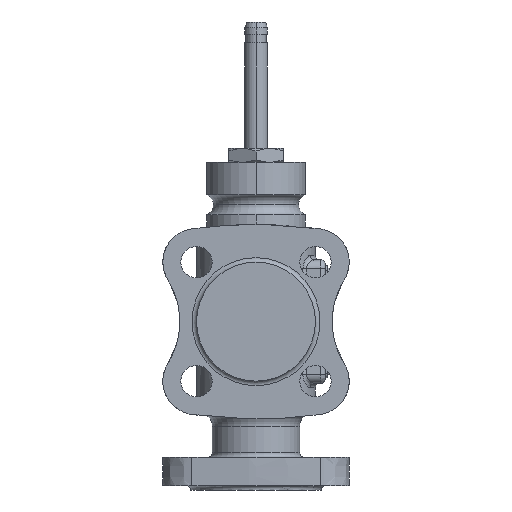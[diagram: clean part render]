
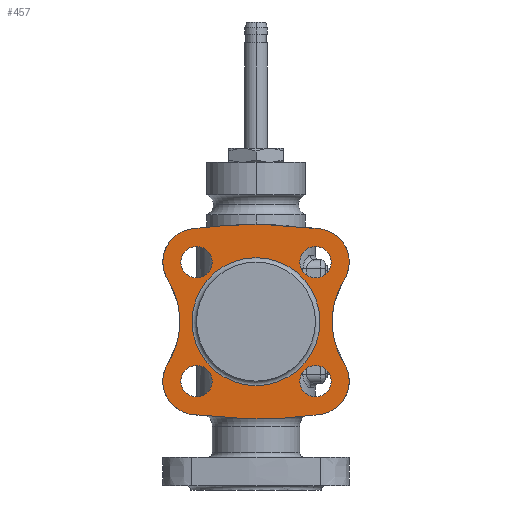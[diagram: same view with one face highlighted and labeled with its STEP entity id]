
A CAD part, left-side view. The second image highlights one B-rep face of the part: STEP entity #457.
In plain terms, the highlighted planar face has unit normal (-1, 0, 0).
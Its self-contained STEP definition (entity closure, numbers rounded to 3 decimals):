
#457=ADVANCED_FACE('',(#712,#713,#714,#715,#716,#717),#593,.T.);
#593=PLANE('',#2248);
#624=B_SPLINE_CURVE_WITH_KNOTS('',3,(#3080,#3081,#3082,#3083),
 .UNSPECIFIED.,.F.,.F.,(4,4),(0.,1.),.UNSPECIFIED.);
#625=B_SPLINE_CURVE_WITH_KNOTS('',3,(#3086,#3087,#3088,#3089,#3090,#3091),
 .UNSPECIFIED.,.F.,.F.,(4,2,4),(0.,0.5,1.),.UNSPECIFIED.);
#626=B_SPLINE_CURVE_WITH_KNOTS('',3,(#3093,#3094,#3095,#3096,#3097,#3098,
#3099,#3100,#3101,#3102),.UNSPECIFIED.,.F.,.F.,(4,2,2,2,4),(0.,0.25,0.5,
0.75,1.),.UNSPECIFIED.);
#627=B_SPLINE_CURVE_WITH_KNOTS('',3,(#3104,#3105,#3106,#3107,#3108,#3109),
 .UNSPECIFIED.,.F.,.F.,(4,2,4),(0.,0.5,1.),.UNSPECIFIED.);
#628=B_SPLINE_CURVE_WITH_KNOTS('',3,(#3111,#3112,#3113,#3114),
 .UNSPECIFIED.,.F.,.F.,(4,4),(0.,1.),.UNSPECIFIED.);
#629=B_SPLINE_CURVE_WITH_KNOTS('',3,(#3116,#3117,#3118,#3119,#3120,#3121),
 .UNSPECIFIED.,.F.,.F.,(4,2,4),(0.,0.5,1.),.UNSPECIFIED.);
#630=B_SPLINE_CURVE_WITH_KNOTS('',3,(#3123,#3124,#3125,#3126,#3127,#3128,
#3129,#3130,#3131,#3132),.UNSPECIFIED.,.F.,.F.,(4,2,2,2,4),(0.,0.25,0.5,
0.75,1.),.UNSPECIFIED.);
#631=B_SPLINE_CURVE_WITH_KNOTS('',3,(#3134,#3135,#3136,#3137,#3138,#3139),
 .UNSPECIFIED.,.F.,.F.,(4,2,4),(0.,0.5,1.),.UNSPECIFIED.);
#712=FACE_BOUND('',#810,.T.);
#713=FACE_BOUND('',#811,.T.);
#714=FACE_BOUND('',#812,.T.);
#715=FACE_BOUND('',#813,.T.);
#716=FACE_BOUND('',#814,.T.);
#717=FACE_BOUND('',#815,.T.);
#810=EDGE_LOOP('',(#1006));
#811=EDGE_LOOP('',(#1007));
#812=EDGE_LOOP('',(#1008));
#813=EDGE_LOOP('',(#1009));
#814=EDGE_LOOP('',(#1010));
#815=EDGE_LOOP('',(#1011,#1012,#1013,#1014,#1015,#1016,#1017,#1018));
#1006=ORIENTED_EDGE('',*,*,#1808,.F.);
#1007=ORIENTED_EDGE('',*,*,#1809,.F.);
#1008=ORIENTED_EDGE('',*,*,#1810,.F.);
#1009=ORIENTED_EDGE('',*,*,#1811,.F.);
#1010=ORIENTED_EDGE('',*,*,#1812,.T.);
#1011=ORIENTED_EDGE('',*,*,#1813,.T.);
#1012=ORIENTED_EDGE('',*,*,#1814,.T.);
#1013=ORIENTED_EDGE('',*,*,#1815,.T.);
#1014=ORIENTED_EDGE('',*,*,#1816,.T.);
#1015=ORIENTED_EDGE('',*,*,#1817,.T.);
#1016=ORIENTED_EDGE('',*,*,#1818,.T.);
#1017=ORIENTED_EDGE('',*,*,#1819,.T.);
#1018=ORIENTED_EDGE('',*,*,#1820,.T.);
#1606=VERTEX_POINT('',#3071);
#1607=VERTEX_POINT('',#3073);
#1608=VERTEX_POINT('',#3075);
#1609=VERTEX_POINT('',#3077);
#1610=VERTEX_POINT('',#3079);
#1611=VERTEX_POINT('',#3084);
#1612=VERTEX_POINT('',#3085);
#1613=VERTEX_POINT('',#3092);
#1614=VERTEX_POINT('',#3103);
#1615=VERTEX_POINT('',#3110);
#1616=VERTEX_POINT('',#3115);
#1617=VERTEX_POINT('',#3122);
#1618=VERTEX_POINT('',#3133);
#1808=EDGE_CURVE('',#1606,#1606,#2108,.T.);
#1809=EDGE_CURVE('',#1607,#1607,#2109,.T.);
#1810=EDGE_CURVE('',#1608,#1608,#2110,.T.);
#1811=EDGE_CURVE('',#1609,#1609,#2111,.T.);
#1812=EDGE_CURVE('',#1610,#1610,#2112,.T.);
#1813=EDGE_CURVE('',#1611,#1612,#624,.T.);
#1814=EDGE_CURVE('',#1612,#1613,#625,.T.);
#1815=EDGE_CURVE('',#1613,#1614,#626,.T.);
#1816=EDGE_CURVE('',#1614,#1615,#627,.T.);
#1817=EDGE_CURVE('',#1615,#1616,#628,.T.);
#1818=EDGE_CURVE('',#1616,#1617,#629,.T.);
#1819=EDGE_CURVE('',#1617,#1618,#630,.T.);
#1820=EDGE_CURVE('',#1618,#1611,#631,.T.);
#2108=CIRCLE('',#2243,7.);
#2109=CIRCLE('',#2244,7.);
#2110=CIRCLE('',#2245,7.);
#2111=CIRCLE('',#2246,7.);
#2112=CIRCLE('',#2247,28.5);
#2243=AXIS2_PLACEMENT_3D('',#3070,#2483,#2484);
#2244=AXIS2_PLACEMENT_3D('',#3072,#2485,#2486);
#2245=AXIS2_PLACEMENT_3D('',#3074,#2487,#2488);
#2246=AXIS2_PLACEMENT_3D('',#3076,#2489,#2490);
#2247=AXIS2_PLACEMENT_3D('',#3078,#2491,#2492);
#2248=AXIS2_PLACEMENT_3D('',#3140,#2493,#2494);
#2483=DIRECTION('',(-1.,0.,0.));
#2484=DIRECTION('',(0.,0.,1.));
#2485=DIRECTION('',(-1.,0.,0.));
#2486=DIRECTION('',(0.,-1.,0.));
#2487=DIRECTION('',(-1.,0.,0.));
#2488=DIRECTION('',(0.,0.,-1.));
#2489=DIRECTION('',(-1.,0.,0.));
#2490=DIRECTION('',(0.,1.,0.));
#2491=DIRECTION('',(1.,0.,0.));
#2492=DIRECTION('',(0.,0.,1.));
#2493=DIRECTION('',(-1.,0.,0.));
#2494=DIRECTION('',(0.,0.,1.));
#3070=CARTESIAN_POINT('',(117.,26.517,26.517));
#3071=CARTESIAN_POINT('',(117.,26.517,33.517));
#3072=CARTESIAN_POINT('',(117.,-26.517,26.517));
#3073=CARTESIAN_POINT('',(117.,-33.517,26.517));
#3074=CARTESIAN_POINT('',(117.,-26.517,-26.517));
#3075=CARTESIAN_POINT('',(117.,-26.517,-33.517));
#3076=CARTESIAN_POINT('',(117.,26.517,-26.517));
#3077=CARTESIAN_POINT('',(117.,33.517,-26.517));
#3078=CARTESIAN_POINT('',(117.,0.,0.));
#3079=CARTESIAN_POINT('',(117.,0.,28.5));
#3080=CARTESIAN_POINT('',(117.,-28.556,41.377));
#3081=CARTESIAN_POINT('',(117.,-9.619,43.976));
#3082=CARTESIAN_POINT('',(117.,9.619,43.976));
#3083=CARTESIAN_POINT('',(117.,28.556,41.377));
#3084=CARTESIAN_POINT('',(117.,-28.556,41.377));
#3085=CARTESIAN_POINT('',(117.,28.556,41.377));
#3086=CARTESIAN_POINT('',(117.,28.556,41.377));
#3087=CARTESIAN_POINT('',(117.,33.539,40.693));
#3088=CARTESIAN_POINT('',(117.,37.972,37.423));
#3089=CARTESIAN_POINT('',(117.,42.228,28.336));
#3090=CARTESIAN_POINT('',(117.,41.901,22.826));
#3091=CARTESIAN_POINT('',(117.,39.233,18.562));
#3092=CARTESIAN_POINT('',(117.,39.233,18.562));
#3093=CARTESIAN_POINT('',(117.,39.233,18.562));
#3094=CARTESIAN_POINT('',(117.,37.489,15.773));
#3095=CARTESIAN_POINT('',(117.,36.171,12.809));
#3096=CARTESIAN_POINT('',(117.,34.368,6.538));
#3097=CARTESIAN_POINT('',(117.,33.908,3.271));
#3098=CARTESIAN_POINT('',(117.,33.904,-3.223));
#3099=CARTESIAN_POINT('',(117.,34.365,-6.516));
#3100=CARTESIAN_POINT('',(117.,36.15,-12.751));
#3101=CARTESIAN_POINT('',(117.,37.489,-15.773));
#3102=CARTESIAN_POINT('',(117.,39.233,-18.562));
#3103=CARTESIAN_POINT('',(117.,39.233,-18.562));
#3104=CARTESIAN_POINT('',(117.,39.233,-18.562));
#3105=CARTESIAN_POINT('',(117.,41.901,-22.826));
#3106=CARTESIAN_POINT('',(117.,42.23,-28.324));
#3107=CARTESIAN_POINT('',(117.,37.98,-37.414));
#3108=CARTESIAN_POINT('',(117.,33.539,-40.693));
#3109=CARTESIAN_POINT('',(117.,28.556,-41.377));
#3110=CARTESIAN_POINT('',(117.,28.556,-41.377));
#3111=CARTESIAN_POINT('',(117.,28.556,-41.377));
#3112=CARTESIAN_POINT('',(117.,9.619,-43.976));
#3113=CARTESIAN_POINT('',(117.,-9.619,-43.976));
#3114=CARTESIAN_POINT('',(117.,-28.556,-41.377));
#3115=CARTESIAN_POINT('',(117.,-28.556,-41.377));
#3116=CARTESIAN_POINT('',(117.,-28.556,-41.377));
#3117=CARTESIAN_POINT('',(117.,-33.54,-40.693));
#3118=CARTESIAN_POINT('',(117.,-37.972,-37.422));
#3119=CARTESIAN_POINT('',(117.,-42.229,-28.335));
#3120=CARTESIAN_POINT('',(117.,-41.901,-22.826));
#3121=CARTESIAN_POINT('',(117.,-39.233,-18.562));
#3122=CARTESIAN_POINT('',(117.,-39.233,-18.562));
#3123=CARTESIAN_POINT('',(117.,-39.233,-18.562));
#3124=CARTESIAN_POINT('',(117.,-37.489,-15.773));
#3125=CARTESIAN_POINT('',(117.,-36.171,-12.809));
#3126=CARTESIAN_POINT('',(117.,-34.368,-6.538));
#3127=CARTESIAN_POINT('',(117.,-33.908,-3.271));
#3128=CARTESIAN_POINT('',(117.,-33.904,3.223));
#3129=CARTESIAN_POINT('',(117.,-34.365,6.516));
#3130=CARTESIAN_POINT('',(117.,-36.15,12.751));
#3131=CARTESIAN_POINT('',(117.,-37.489,15.773));
#3132=CARTESIAN_POINT('',(117.,-39.233,18.562));
#3133=CARTESIAN_POINT('',(117.,-39.233,18.562));
#3134=CARTESIAN_POINT('',(117.,-39.233,18.562));
#3135=CARTESIAN_POINT('',(117.,-41.901,22.826));
#3136=CARTESIAN_POINT('',(117.,-42.23,28.325));
#3137=CARTESIAN_POINT('',(117.,-37.979,37.415));
#3138=CARTESIAN_POINT('',(117.,-33.539,40.693));
#3139=CARTESIAN_POINT('',(117.,-28.556,41.377));
#3140=CARTESIAN_POINT('',(117.,0.,0.));
